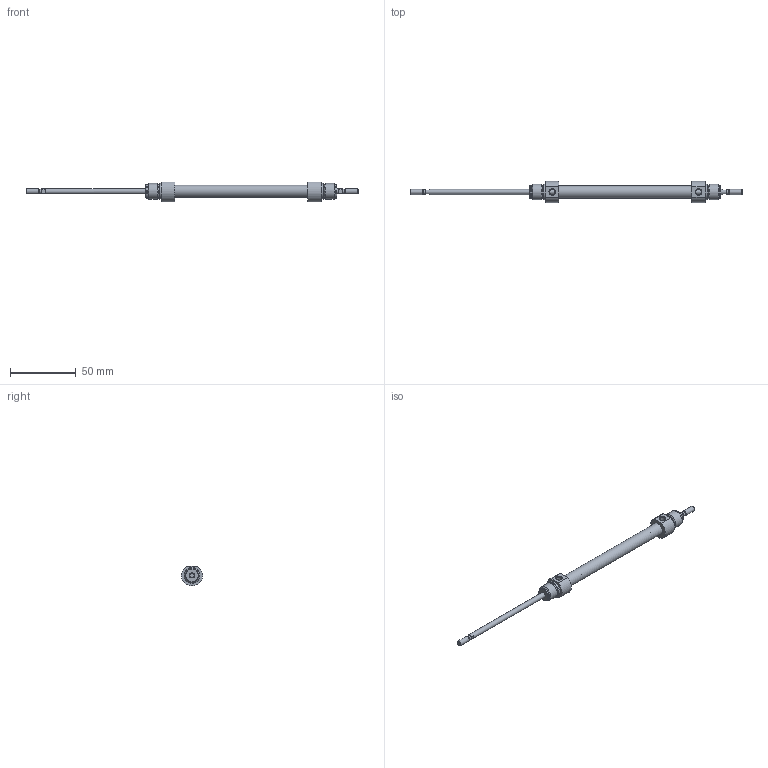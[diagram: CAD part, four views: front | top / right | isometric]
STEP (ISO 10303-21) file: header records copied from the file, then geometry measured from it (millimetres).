
FILE_DESCRIPTION( ( 'STEP AP203' ), '1' );
FILE_NAME( '//expscmdclustefs.cadenas.external/client_exchange/iodir/jobs/output/wkb68261413_no0/STEP/M101-08-0075--__0__2_03.stp', ' ', ( ' ' ), ( ' ' ), 'PSStep 15.0.47', 'PARTsolutions', ' ' );
FILE_SCHEMA( ( 'CONFIG_CONTROL_DESIGN' ) );
Length unit declared in the file: millimetre
Products named in the file (3): M101-08-0075-- [0]; HI_M101-08-0075---[0]-z; HI_M101-08-0075---[0]-k
Assembly tree (2 placements, depth 2):
  M101-08-0075-- [0]
    HI_M101-08-0075---[0]-z
    HI_M101-08-0075---[0]-k
Bounding box: 252 x 15.98 x 14.97 mm (x, y, z)
Volume: 11661.3 mm3; surface area: 11763.8 mm2
Topology: 2 solids, 2 shells, 71 faces, 145 edges, 88 vertices
Faces by surface type: plane 32, cylinder 23, cone 14, torus 2
Full cylindrical faces by diameter (mm): 3.141 x2, 4 x6, 4.134 x2, 8 x2, 9.3 x1, 10.466 x4, 12 x4
Entity records: 1838 total; most frequent: CARTESIAN_POINT 358, DIRECTION 312, ORIENTED_EDGE 212, AXIS2_PLACEMENT_3D 140, EDGE_LOOP 120, EDGE_CURVE 106, FACE_OUTER_BOUND 94, VERTEX_POINT 82
